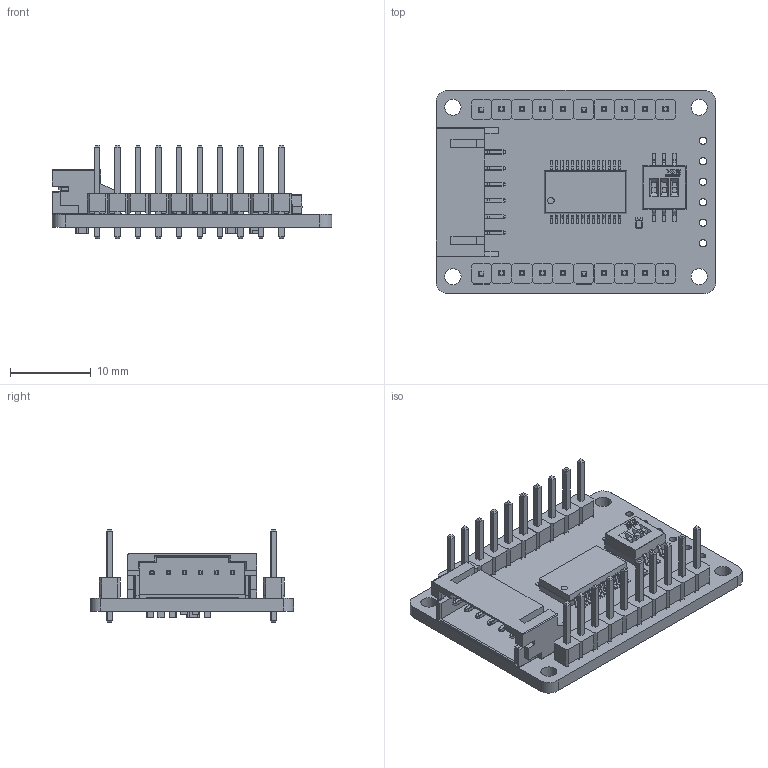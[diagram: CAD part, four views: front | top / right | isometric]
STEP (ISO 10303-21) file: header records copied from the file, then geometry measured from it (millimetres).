
FILE_DESCRIPTION(/* description */ (''),/* implementation_level */ '2;1');
FILE_NAME(/* name */ 'SG-IO-E017-A-V1.1_step.prt_stp.prt.stp',/* time_stamp */ '2025-08-22T10:04:33+08:00',/* author */ (''),/* organization */ (''),/* preprocessor_version */ 'ST-DEVELOPER v16.7',/* originating_system */ 'SIEMENS PLM Software NX 12.0',/* authorisation */ '');
FILE_SCHEMA (('AUTOMOTIVE_DESIGN { 1 0 10303 214 3 1 1 1 }'));
Products named in the file (49): 1_1_2_3_4_A; 2_1_2_3_400; 3_1_2_3_400; PH2_0_SMD-W__1_2_30002; _X2_041D043E0436043A0430_X0_; _X2_041C04350442043A0430_X0_; _X2_041A043E0440043F04430441_X0_; LOGO_36091; User_Library-LED_0603_R_Pad; User_Library-LED_0603_R_Pocket001; User_Library-LED_0603_R_Fillet; User_Library-LED_0603_R_Pad004; User_Library-LED_0603_R_Pocket002; C_06035018; LOGO_; sw-dshp03ts-s; 2_54PIN_single; Open CASCADE STEP translator 6.8 2.1.1; R_060330627; R_0603; R9; R8; C_0603; C6; C5; C4; SSOP-28-3; U1; S1; R7; R6; R3; R2; R1; P4; P3; PH2_0_SMD-W-6P-5891_AF0_ASM; PH2_0_SMD-W-6P-10863_AF0_ASM; PH2.0_SMD-W-6P; Designator8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
Assembly tree (97 placements, depth 8):
  SG-IO-E017-A-V1.1_step.prt_stp
    R_060330627
    Board
      Open CASCADE STEP translator 6.8 2.1.1
    C1
      C_0603
        LOGO_
        C_06035018
    C2
      C_0603
        LOGO_
        C_06035018
    C3
      C_0603
        LOGO_
        C_06035018
    D1
      User_Library-LED_0603_R
        User_Library-LED_0603_R_Pocket002
        User_Library-LED_0603_R_Pad004
        User_Library-LED_0603_R_Fillet
        User_Library-LED_0603_R_Pocket001
        User_Library-LED_0603_R_Pad
    P2
      PH2_0-6PWB
        Designator8
          PH2.0_SMD-W-6P
            PH2_0_SMD-W-6P-10863_AF0_ASM
              PH2_0_SMD-W__1_2_30002  x6
              PH2_0_SMD-W-6P-5891_AF0_ASM
                3_1_2_3_400
                2_1_2_3_400
                1_1_2_3_4_A
    P3
      2_54PIN_single  x10
    P4
      2_54PIN_single  x10
    R1
      R_0603
        R_060330627
        LOGO_36091
    R2
      R_0603
        R_060330627
        LOGO_36091
    R3
      R_0603
        R_060330627
        LOGO_36091
    R6
      R_0603
        R_060330627
        LOGO_36091
    R7
      R_0603
        R_060330627
        LOGO_36091
    S1
      sw-dshp03ts-s
    U1
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Bounding box: 34.68 x 25.18 x 11.54 mm (x, y, z)
Volume: 2087.6 mm3; surface area: 4514 mm2
Topology: 289 solids, 289 shells, 5226 faces, 12859 edges, 8356 vertices
Faces by surface type: plane 3391, bspline 1046, cylinder 689, sphere 52, torus 48
Full cylindrical faces by diameter (mm): 0.9 x6, 1 x16, 1.15 x4, 2 x4
Entity records: 61941 total; most frequent: CARTESIAN_POINT 16692, ORIENTED_EDGE 8710, DIRECTION 7335, EDGE_CURVE 4355, LINE 3561, VECTOR 3561, VERTEX_POINT 2884, AXIS2_PLACEMENT_3D 1887
